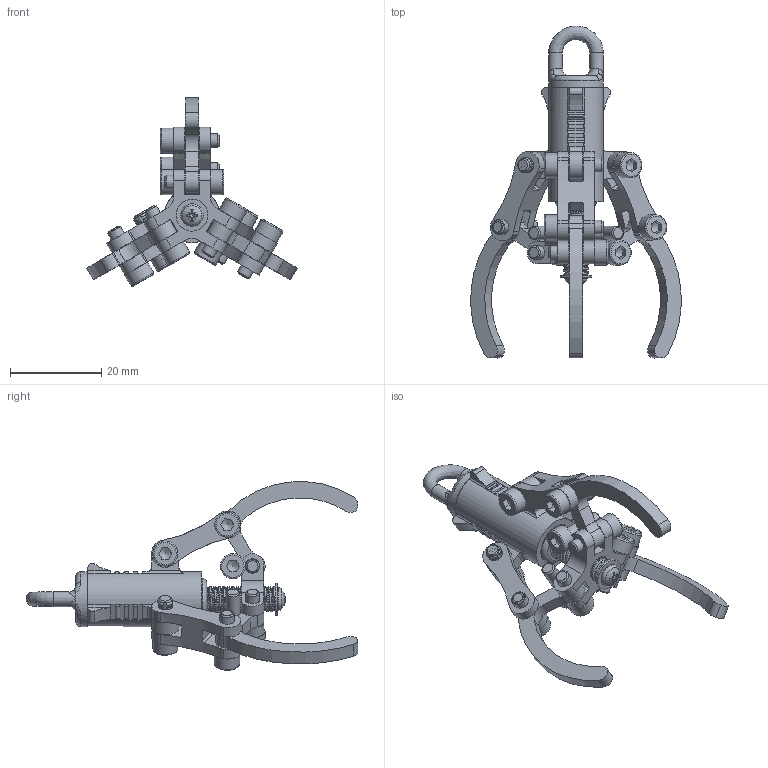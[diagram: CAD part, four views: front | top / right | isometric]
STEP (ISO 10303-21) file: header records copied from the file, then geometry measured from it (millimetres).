
FILE_DESCRIPTION(/* description */ ('','CAx-IF Rec.Pracs.---Representation and Presentation of Product Manufacturing Information (PMI)---4.0---2014-10-13'),/* implementation_level */ '2;1');
FILE_NAME(/* name */ 'Assieme_pinza_vite2.stp',/* time_stamp */ '2026-05-15T14:13:22+02:00',/* author */ ('R5800u'),/* organization */ (''),/* preprocessor_version */ 'ST-DEVELOPER v20',/* originating_system */ 'Autodesk Inventor 2025',/* authorisation */ '');
FILE_SCHEMA (('AP242_MANAGED_MODEL_BASED_3D_ENGINEERING_MIM_LF { 1 0 10303 442 1 1 4 }'));
Length unit declared in the file: millimetre
Products named in the file (11): Assieme1; Parte1; vite; vite3; dado; Parte5; Parte4; Parte2; AS 1420 - 1973 - M3 x 10; AS 1427 - M2,5 x 5; rondella
Assembly tree (26 placements, depth 2):
  Assieme1
    Parte1
    AS 1420 - 1973 - M3 x 10  x13
    vite
    vite3
    dado
    Parte5
    Parte4  x3
    Parte2  x3
    AS 1427 - M2,5 x 5
    rondella
Bounding box: 46.16 x 72.78 x 41.39 mm (x, y, z)
Volume: 8850.6 mm3; surface area: 12114.6 mm2
Topology: 26 solids, 26 shells, 693 faces, 1839 edges, 1210 vertices
Faces by surface type: plane 298, cylinder 275, torus 52, cone 49, bspline 18, sphere 1
Full cylindrical faces by diameter (mm): 1.8 x4, 2.224 x1, 2.5 x2, 3 x16, 3.2 x27, 3.5 x3, 4.744 x14, 5 x1, 5.3 x4, 5.5 x28, 6.147 x4, 7 x1, 8 x1, 8.15 x1, 9 x1, 9.2 x1, 12 x2
Entity records: 33265 total; most frequent: CARTESIAN_POINT 20739, DIRECTION 2481, ORIENTED_EDGE 2280, EDGE_CURVE 1140, AXIS2_PLACEMENT_3D 993, VERTEX_POINT 750, LINE 495, VECTOR 495
